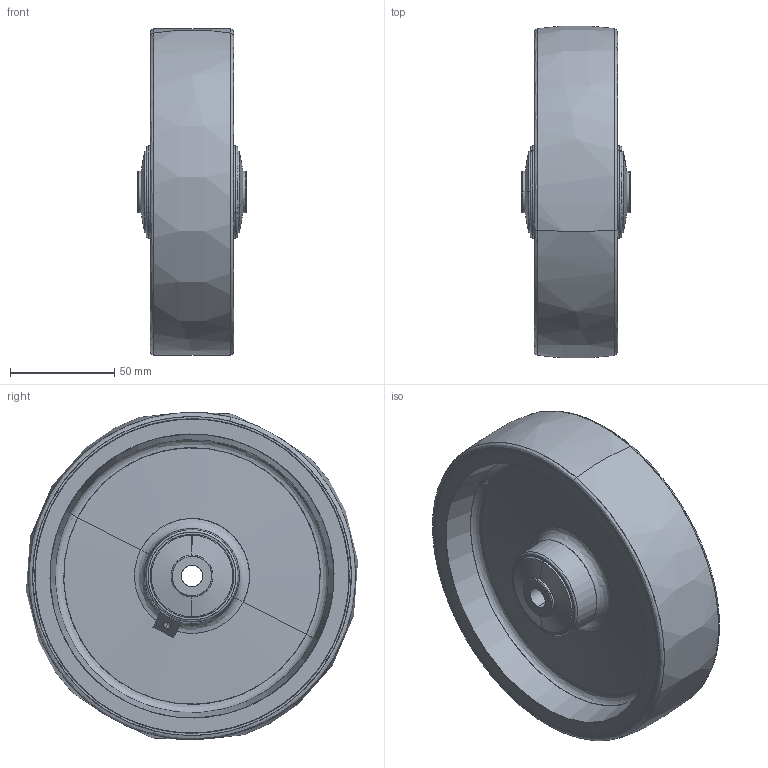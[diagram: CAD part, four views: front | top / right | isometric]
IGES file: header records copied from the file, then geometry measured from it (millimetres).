
Start section: SolidWorks IGES file using analytic representation for surfaces
Global section: file name: S:\Tyokansio\VL\LK\400121_IGES.IGS; native system: SolidWorks 2011; preprocessor: SolidWorks 2011; author: VilleLa; date: 110829.100452; units: millimetre
Bounding box: 52 x 158.96 x 156.48 mm (x, y, z)
Surface area: 87364.9 mm2 (no closed solid volume)
Topology: 0 solids, 0 shells, 78 faces, 1504 edges, 1502 vertices
Faces by surface type: revolution 42, bspline 36
